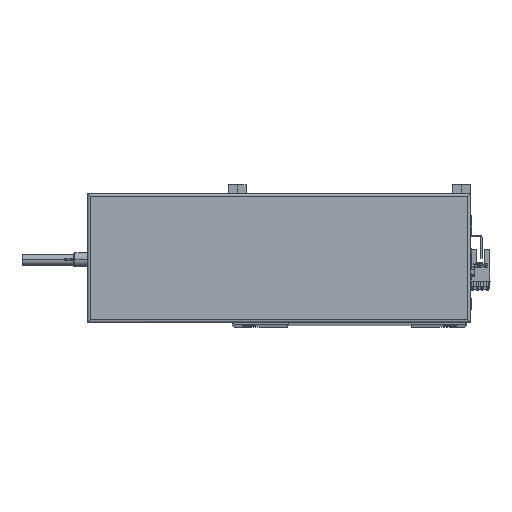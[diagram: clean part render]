
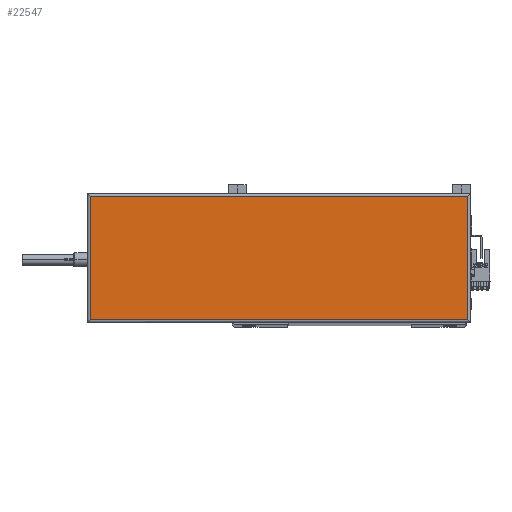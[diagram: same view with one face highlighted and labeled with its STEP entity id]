
A CAD part, top view. The second image highlights one B-rep face of the part: STEP entity #22547.
In plain terms, the highlighted planar face has unit normal (0, 0, 1).
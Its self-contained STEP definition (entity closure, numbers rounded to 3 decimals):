
#4155 = CARTESIAN_POINT ( 'NONE',  ( 2., 0., 44.8 ) ) ;
#4316 = CARTESIAN_POINT ( 'NONE',  ( 265., 2., 44.8 ) ) ;
#5616 = EDGE_CURVE ( 'NONE', #47121, #47754, #42512, .T. ) ;
#11014 = VERTEX_POINT ( 'NONE', #42983 ) ;
#11500 = LINE ( 'NONE', #4155, #52028 ) ;
#12361 = EDGE_CURVE ( 'NONE', #11014, #47121, #11500, .T. ) ;
#15444 = CARTESIAN_POINT ( 'NONE',  ( 0., 88., 44.8 ) ) ;
#15646 = LINE ( 'NONE', #42959, #37261 ) ;
#19943 = DIRECTION ( 'NONE',  ( 1., 0., 0. ) ) ;
#20264 = ORIENTED_EDGE ( 'NONE', *, *, #28326, .T. ) ;
#20326 = DIRECTION ( 'NONE',  ( 0., -1., 0. ) ) ;
#20550 = AXIS2_PLACEMENT_3D ( 'NONE', #44423, #43723, #19943 ) ;
#21997 = ORIENTED_EDGE ( 'NONE', *, *, #40339, .T. ) ;
#22277 = DIRECTION ( 'NONE',  ( 1., 0., 0. ) ) ;
#22547 = ADVANCED_FACE ( 'NONE', ( #49692 ), #36317, .T. ) ;
#23087 = CARTESIAN_POINT ( 'NONE',  ( 2., 2., 44.8 ) ) ;
#26884 = LINE ( 'NONE', #15444, #47776 ) ;
#28326 = EDGE_CURVE ( 'NONE', #52173, #11014, #26884, .T. ) ;
#30598 = DIRECTION ( 'NONE',  ( 0., 1., 0. ) ) ;
#33590 = CARTESIAN_POINT ( 'NONE',  ( 265., 88., 44.8 ) ) ;
#36317 = PLANE ( 'NONE',  #20550 ) ;
#37261 = VECTOR ( 'NONE', #30598, 1000. ) ;
#38115 = VECTOR ( 'NONE', #22277, 1000. ) ;
#40339 = EDGE_CURVE ( 'NONE', #47754, #52173, #15646, .T. ) ;
#41490 = EDGE_LOOP ( 'NONE', ( #21997, #20264, #52467, #52486 ) ) ;
#42157 = CARTESIAN_POINT ( 'NONE',  ( 267., 2., 44.8 ) ) ;
#42512 = LINE ( 'NONE', #42157, #38115 ) ;
#42959 = CARTESIAN_POINT ( 'NONE',  ( 265., 90., 44.8 ) ) ;
#42983 = CARTESIAN_POINT ( 'NONE',  ( 2., 88., 44.8 ) ) ;
#43134 = DIRECTION ( 'NONE',  ( -1., 0., 0. ) ) ;
#43723 = DIRECTION ( 'NONE',  ( 0., 0., 1. ) ) ;
#44423 = CARTESIAN_POINT ( 'NONE',  ( 133.5, 45., 44.8 ) ) ;
#47121 = VERTEX_POINT ( 'NONE', #23087 ) ;
#47754 = VERTEX_POINT ( 'NONE', #4316 ) ;
#47776 = VECTOR ( 'NONE', #43134, 1000. ) ;
#49692 = FACE_OUTER_BOUND ( 'NONE', #41490, .T. ) ;
#52028 = VECTOR ( 'NONE', #20326, 1000. ) ;
#52173 = VERTEX_POINT ( 'NONE', #33590 ) ;
#52467 = ORIENTED_EDGE ( 'NONE', *, *, #12361, .T. ) ;
#52486 = ORIENTED_EDGE ( 'NONE', *, *, #5616, .T. ) ;
